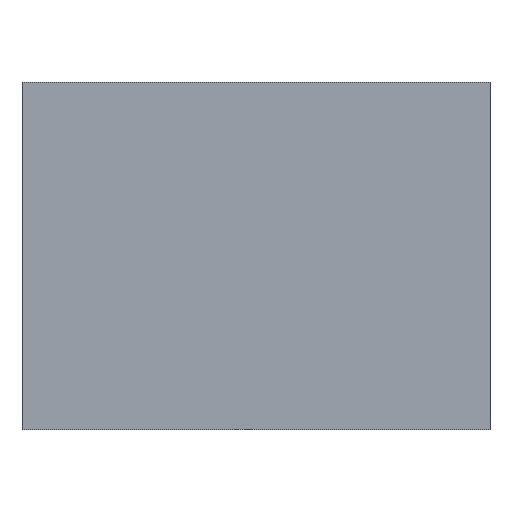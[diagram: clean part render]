
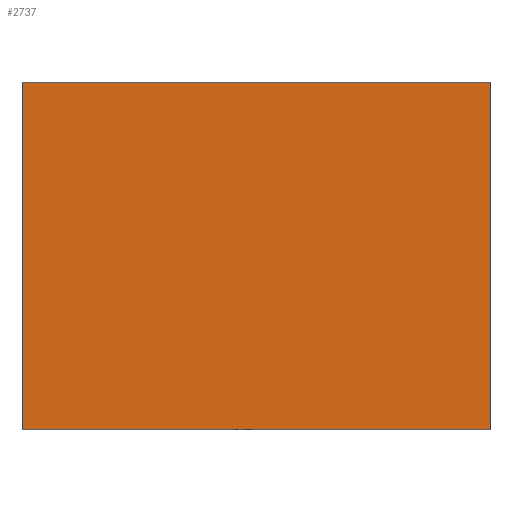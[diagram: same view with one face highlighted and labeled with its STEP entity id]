
A CAD part, front view. The second image highlights one B-rep face of the part: STEP entity #2737.
In plain terms, the highlighted planar face has unit normal (0, -1, 0).
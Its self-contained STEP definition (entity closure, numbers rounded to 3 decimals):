
#66 = LINE ( 'NONE', #2871, #3330 ) ;
#324 = DIRECTION ( 'NONE',  ( 1., 0., 0. ) ) ;
#471 = DIRECTION ( 'NONE',  ( 1., 0., 0. ) ) ;
#485 = EDGE_CURVE ( 'NONE', #1317, #3924, #2145, .T. ) ;
#548 = ORIENTED_EDGE ( 'NONE', *, *, #3920, .F. ) ;
#705 = VECTOR ( 'NONE', #1718, 1000. ) ;
#1078 = LINE ( 'NONE', #3810, #705 ) ;
#1269 = DIRECTION ( 'NONE',  ( -1., 0., 0. ) ) ;
#1317 = VERTEX_POINT ( 'NONE', #3724 ) ;
#1416 = VERTEX_POINT ( 'NONE', #3690 ) ;
#1512 = EDGE_CURVE ( 'NONE', #1416, #2971, #1078, .T. ) ;
#1718 = DIRECTION ( 'NONE',  ( 0., 0., -1. ) ) ;
#1763 = FACE_OUTER_BOUND ( 'NONE', #2073, .T. ) ;
#2019 = ORIENTED_EDGE ( 'NONE', *, *, #2763, .T. ) ;
#2073 = EDGE_LOOP ( 'NONE', ( #2289, #2019, #2631, #548 ) ) ;
#2145 = LINE ( 'NONE', #2613, #3886 ) ;
#2289 = ORIENTED_EDGE ( 'NONE', *, *, #485, .T. ) ;
#2379 = LINE ( 'NONE', #2462, #2575 ) ;
#2462 = CARTESIAN_POINT ( 'NONE',  ( 200.999, -16., 149.443 ) ) ;
#2575 = VECTOR ( 'NONE', #324, 1000. ) ;
#2613 = CARTESIAN_POINT ( 'NONE',  ( -201.751, -16., 149.443 ) ) ;
#2631 = ORIENTED_EDGE ( 'NONE', *, *, #1512, .F. ) ;
#2737 = ADVANCED_FACE ( 'NONE', ( #1763 ), #3099, .F. ) ;
#2743 = AXIS2_PLACEMENT_3D ( 'NONE', #2781, #3679, #1269 ) ;
#2763 = EDGE_CURVE ( 'NONE', #3924, #2971, #66, .T. ) ;
#2781 = CARTESIAN_POINT ( 'NONE',  ( 200.999, -16., 149.443 ) ) ;
#2871 = CARTESIAN_POINT ( 'NONE',  ( 200.999, -16., -149.5 ) ) ;
#2971 = VERTEX_POINT ( 'NONE', #3550 ) ;
#3099 = PLANE ( 'NONE',  #2743 ) ;
#3330 = VECTOR ( 'NONE', #471, 1000. ) ;
#3341 = CARTESIAN_POINT ( 'NONE',  ( -201.751, -16., -149.5 ) ) ;
#3532 = DIRECTION ( 'NONE',  ( 0., 0., -1. ) ) ;
#3550 = CARTESIAN_POINT ( 'NONE',  ( 200.999, -16., -149.5 ) ) ;
#3679 = DIRECTION ( 'NONE',  ( 0., 1., 0. ) ) ;
#3690 = CARTESIAN_POINT ( 'NONE',  ( 200.999, -16., 149.443 ) ) ;
#3724 = CARTESIAN_POINT ( 'NONE',  ( -201.751, -16., 149.443 ) ) ;
#3810 = CARTESIAN_POINT ( 'NONE',  ( 200.999, -16., 149.443 ) ) ;
#3886 = VECTOR ( 'NONE', #3532, 1000. ) ;
#3920 = EDGE_CURVE ( 'NONE', #1317, #1416, #2379, .T. ) ;
#3924 = VERTEX_POINT ( 'NONE', #3341 ) ;
